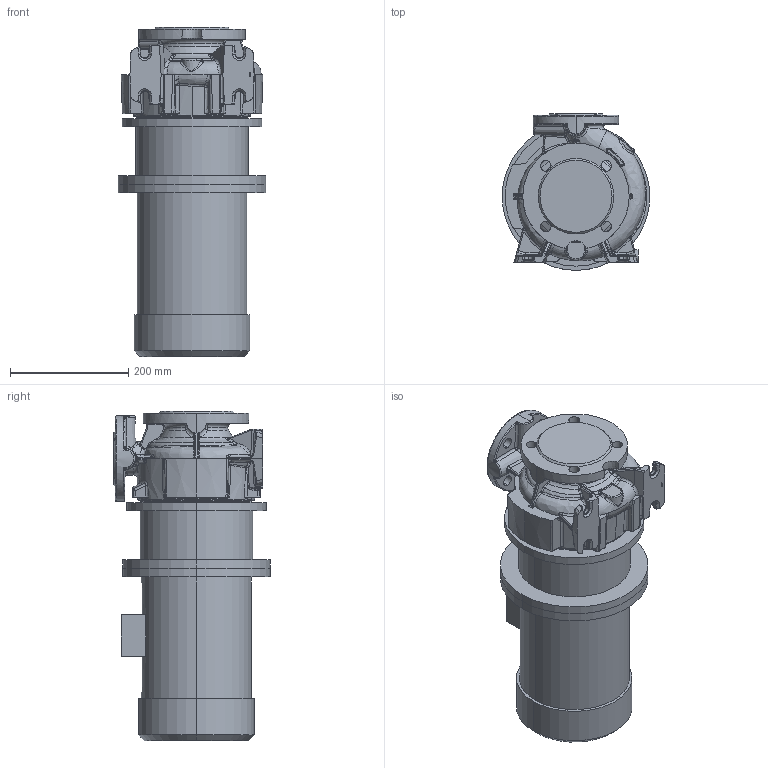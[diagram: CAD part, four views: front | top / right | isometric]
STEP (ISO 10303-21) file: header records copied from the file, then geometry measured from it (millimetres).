
FILE_DESCRIPTION (( 'STEP AP214' ), '1' );
FILE_NAME ('KRM 65-40-125-2-3.STEP', '2026-04-24T07:16:23', ( '' ), ( '' ), 'SwSTEP 2.0', 'SolidWorks 2016', '' );
FILE_SCHEMA (( 'AUTOMOTIVE_DESIGN' ));
Length unit declared in the file: millimetre
Products named in the file (1): KRM 65-40-125-2-3
Bounding box: 250 x 265 x 557.3 mm (x, y, z)
Volume: 17619515.2 mm3; surface area: 860737.3 mm2
Topology: 5 solids, 5 shells, 924 faces, 2194 edges, 1266 vertices
Faces by surface type: bspline 403, cylinder 205, plane 142, torus 70, sphere 54, cone 50
Entity records: 69024 total; most frequent: CARTESIAN_POINT 40848, ORIENTED_EDGE 4324, DIRECTION 3072, EDGE_CURVE 2162, AXIS2_PLACEMENT_3D 1332, VERTEX_POINT 1262, EDGE_LOOP 954, UNCERTAINTY_MEASURE_WITH_UNIT 931
